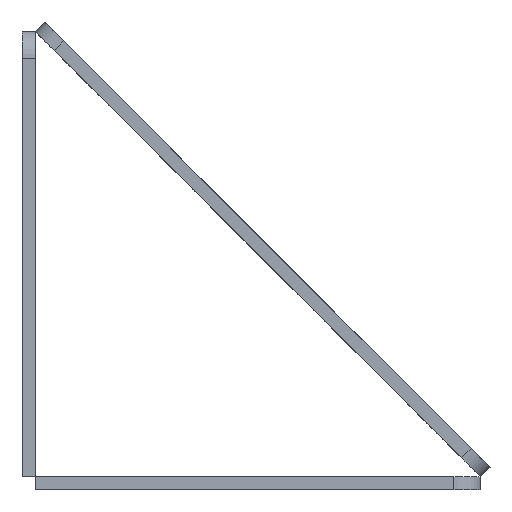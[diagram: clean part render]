
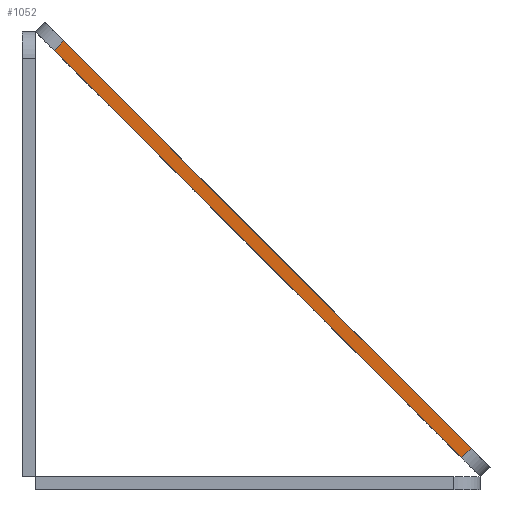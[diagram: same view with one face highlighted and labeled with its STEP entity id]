
A CAD part, left-side view. The second image highlights one B-rep face of the part: STEP entity #1052.
In plain terms, the highlighted planar face has unit normal (-1, 0, 0).
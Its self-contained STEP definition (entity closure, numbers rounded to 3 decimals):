
#39 = FACE_OUTER_BOUND ( 'NONE', #364, .T. ) ;
#97 = CARTESIAN_POINT ( 'NONE',  ( -59.388, -4.351, 3. ) ) ;
#279 = CARTESIAN_POINT ( 'NONE',  ( -59.388, 125.069, 3. ) ) ;
#364 = EDGE_LOOP ( 'NONE', ( #1785, #1943, #520, #1088 ) ) ;
#373 = VERTEX_POINT ( 'NONE', #1693 ) ;
#443 = VECTOR ( 'NONE', #1676, 1000. ) ;
#486 = CARTESIAN_POINT ( 'NONE',  ( -59.388, 125.069, 3. ) ) ;
#520 = ORIENTED_EDGE ( 'NONE', *, *, #1444, .F. ) ;
#606 = LINE ( 'NONE', #1950, #1696 ) ;
#685 = VECTOR ( 'NONE', #786, 1000. ) ;
#741 = PLANE ( 'NONE',  #941 ) ;
#758 = EDGE_CURVE ( 'NONE', #1592, #373, #1264, .T. ) ;
#786 = DIRECTION ( 'NONE',  ( 0., -1., 0. ) ) ;
#890 = DIRECTION ( 'NONE',  ( 0., 1., 0. ) ) ;
#891 = LINE ( 'NONE', #486, #443 ) ;
#919 = DIRECTION ( 'NONE',  ( 0., 0., -1. ) ) ;
#941 = AXIS2_PLACEMENT_3D ( 'NONE', #279, #1774, #890 ) ;
#974 = EDGE_CURVE ( 'NONE', #1935, #1178, #606, .T. ) ;
#1052 = ADVANCED_FACE ( 'NONE', ( #39 ), #741, .F. ) ;
#1088 = ORIENTED_EDGE ( 'NONE', *, *, #974, .T. ) ;
#1130 = VECTOR ( 'NONE', #919, 1000. ) ;
#1178 = VERTEX_POINT ( 'NONE', #1747 ) ;
#1264 = LINE ( 'NONE', #1500, #1130 ) ;
#1346 = DIRECTION ( 'NONE',  ( 0., 0., -1. ) ) ;
#1444 = EDGE_CURVE ( 'NONE', #1935, #1592, #891, .T. ) ;
#1476 = LINE ( 'NONE', #1668, #685 ) ;
#1500 = CARTESIAN_POINT ( 'NONE',  ( -59.388, -4.351, 3. ) ) ;
#1592 = VERTEX_POINT ( 'NONE', #97 ) ;
#1668 = CARTESIAN_POINT ( 'NONE',  ( -59.388, 125.069, 0. ) ) ;
#1676 = DIRECTION ( 'NONE',  ( 0., -1., 0. ) ) ;
#1693 = CARTESIAN_POINT ( 'NONE',  ( -59.388, -4.351, 0. ) ) ;
#1696 = VECTOR ( 'NONE', #1346, 1000. ) ;
#1734 = CARTESIAN_POINT ( 'NONE',  ( -59.388, 125.069, 3. ) ) ;
#1747 = CARTESIAN_POINT ( 'NONE',  ( -59.388, 125.069, 0. ) ) ;
#1774 = DIRECTION ( 'NONE',  ( 1., 0., 0. ) ) ;
#1785 = ORIENTED_EDGE ( 'NONE', *, *, #1875, .T. ) ;
#1875 = EDGE_CURVE ( 'NONE', #1178, #373, #1476, .T. ) ;
#1935 = VERTEX_POINT ( 'NONE', #1734 ) ;
#1943 = ORIENTED_EDGE ( 'NONE', *, *, #758, .F. ) ;
#1950 = CARTESIAN_POINT ( 'NONE',  ( -59.388, 125.069, 3. ) ) ;
